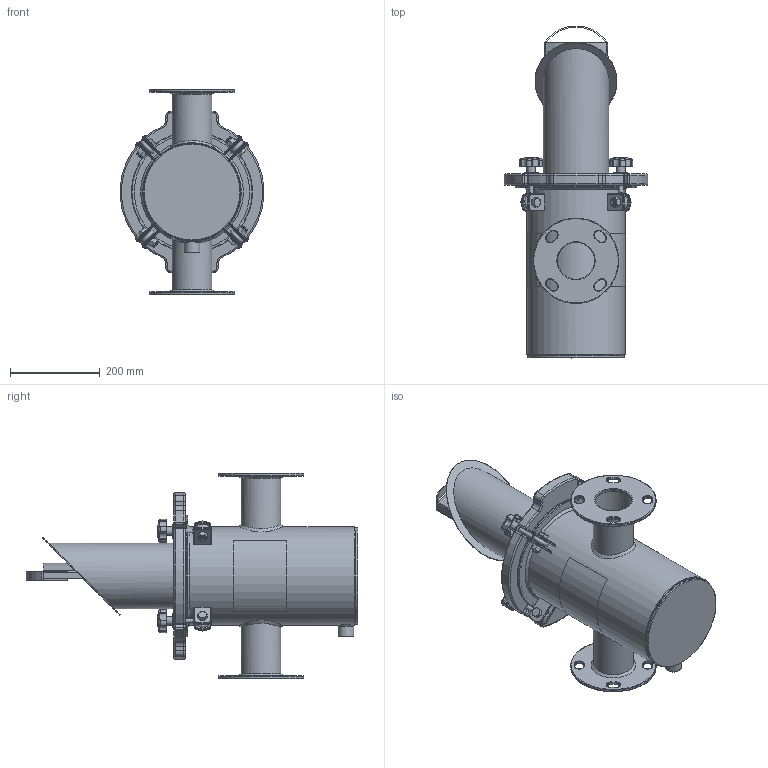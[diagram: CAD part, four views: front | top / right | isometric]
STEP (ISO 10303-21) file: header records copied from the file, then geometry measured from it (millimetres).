
FILE_DESCRIPTION(/* description */ ('8 5/8" STRAINER BODY'),/* implementation_level */ '2;1');
FILE_NAME(/* name */ 'C:\Users\r.kommineni.ext\Desktop\NB\CAD\Workspace\SS Straight\Guardian SS H&L Strainer (Inch)_CLEARANCE VOLUME\STRAINER H&L GUARDIAN 3(_DQ).stp',/* time_stamp */ '2017-06-09T10:29:02-04:00',/* author */ ('r.kommineni.ext'),/* organization */ (''),/* preprocessor_version */ 'ST-DEVELOPER v16.1',/* originating_system */ 'Autodesk Inventor 2016',/* authorisation */ '');
FILE_SCHEMA (('CONFIG_CONTROL_DESIGN'));
Length unit declared in the file: inch
Products named in the file (29): NBSSBODY03_Welds; FOR NBSSBODY03; FOR 8 5(_FS)8 DIA STRAINER BODY; FOR 8 5(_FS)8 DIA STRAINER BODY_1; 8 5(_FS)8 Body; ConcentricPipe-3(_DQ); 3(_DQ); For 8 5(_FS)8 Body; ASME B16.11 Half Coupling Threaded - Class 3000 3_4 x 3_4; 8 5(_FS)8 Body_1; NBSSBODY03; 150NBCVR13R1; 150NBGSK08R1; Perforated Basket 8in; Bride (Ring) 8in; Baffle 8in; Handle 8in; Bottom Strainer 8in; Nut- 1_2  UNC; Bolt-1_2 x 1 1_2  UNC; EyeBolt; Washer; Knob M10; Securing Assembly without Brace; Label for 8.625 inch (Right); Label for 8.625 inch (Left); NBBSK04T316_clearance; NBBSK04T316_clearance_1; STRAINER H&L GUARDIAN  3(_DQ)
Assembly tree (43 placements, depth 3):
  STRAINER H&L GUARDIAN  3(_DQ)
    NBSSBODY03
      NBSSBODY03_Welds
      FOR NBSSBODY03
      FOR 8 5(_FS)8 DIA STRAINER BODY
      FOR 8 5(_FS)8 DIA STRAINER BODY_1
      8 5(_FS)8 Body  x4
      ConcentricPipe-3(_DQ)  x2
      3(_DQ)  x2
      For 8 5(_FS)8 Body
      ASME B16.11 Half Coupling Threaded - Class 3000 3_4 x 3_4
      8 5(_FS)8 Body_1  x8
    150NBCVR13R1
    150NBGSK08R1
    NBBSK04T316_clearance_1
      Perforated Basket 8in
      Bride (Ring) 8in
      Baffle 8in
      Handle 8in
      Bottom Strainer 8in
      NBBSK04T316_clearance
    Securing Assembly without Brace  x4
      Nut- 1_2  UNC
      Bolt-1_2 x 1 1_2  UNC
      EyeBolt
      Washer
      Knob M10
    Label for 8.625 inch (Right)
    Label for 8.625 inch (Left)
Bounding box: 319.64 x 738.88 x 457.2 mm (x, y, z)
Volume: 4542182.3 mm3; surface area: 1962558.4 mm2
Topology: 65 solids, 69 shells, 1250 faces, 2794 edges, 1666 vertices
Faces by surface type: cylinder 447, plane 382, torus 195, cone 97, bspline 69, sphere 60
Full cylindrical faces by diameter (mm): 3.175 x10, 6.35 x1, 8.382 x4, 9.525 x8, 10.592 x4, 12.7 x4, 15.875 x8, 19 x8, 19.05 x4, 22.8 x1, 22.809 x1, 31.75 x4, 35.052 x1, 82.55 x2, 83.342 x4, 88.9 x6, 142.875 x2, 146.05 x2, 148.59 x1, 190.5 x2, 211.534 x3, 212.725 x1, 215.9 x2, 219.075 x2, 222.25 x1, 257.175 x1, 263.525 x1, 269.875 x1
Entity records: 23780 total; most frequent: CARTESIAN_POINT 8425, DIRECTION 3289, ORIENTED_EDGE 2688, EDGE_CURVE 1369, AXIS2_PLACEMENT_3D 1357, VERTEX_POINT 884, EDGE_LOOP 797, ADVANCED_FACE 644
